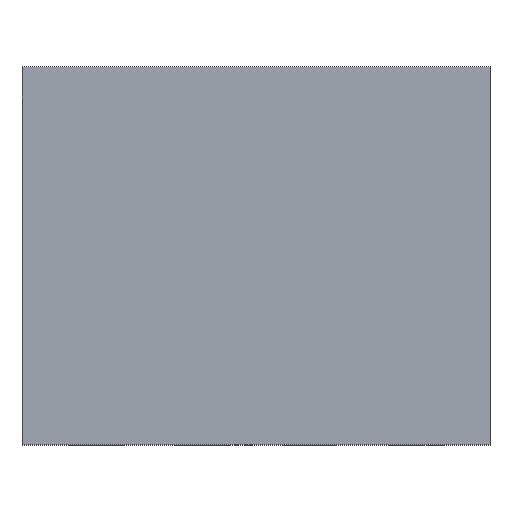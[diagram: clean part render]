
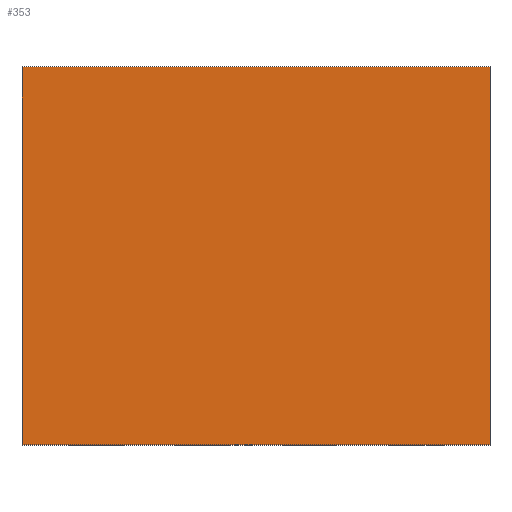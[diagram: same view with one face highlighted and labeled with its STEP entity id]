
A CAD part, top view. The second image highlights one B-rep face of the part: STEP entity #353.
In plain terms, the highlighted planar face has unit normal (0, 0, 1).
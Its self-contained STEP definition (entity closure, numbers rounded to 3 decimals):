
#39 = VERTEX_POINT('',#40);
#40 = CARTESIAN_POINT('',(-5.575,4.5,5.));
#47 = PLANE('',#48);
#48 = AXIS2_PLACEMENT_3D('',#49,#50,#51);
#49 = CARTESIAN_POINT('',(-5.575,4.5,0.));
#50 = DIRECTION('',(0.,1.,0.));
#51 = DIRECTION('',(1.,0.,0.));
#59 = PLANE('',#60);
#60 = AXIS2_PLACEMENT_3D('',#61,#62,#63);
#61 = CARTESIAN_POINT('',(-5.575,-4.5,0.));
#62 = DIRECTION('',(-1.,0.,0.));
#63 = DIRECTION('',(0.,1.,0.));
#71 = EDGE_CURVE('',#39,#72,#74,.T.);
#72 = VERTEX_POINT('',#73);
#73 = CARTESIAN_POINT('',(5.575,4.5,5.));
#74 = SURFACE_CURVE('',#75,(#79,#86),.PCURVE_S1.);
#75 = LINE('',#76,#77);
#76 = CARTESIAN_POINT('',(-5.575,4.5,5.));
#77 = VECTOR('',#78,1.);
#78 = DIRECTION('',(1.,0.,0.));
#79 = PCURVE('',#47,#80);
#80 = DEFINITIONAL_REPRESENTATION('',(#81),#85);
#81 = LINE('',#82,#83);
#82 = CARTESIAN_POINT('',(0.,-5.));
#83 = VECTOR('',#84,1.);
#84 = DIRECTION('',(1.,0.));
#85 = ( GEOMETRIC_REPRESENTATION_CONTEXT(2) 
PARAMETRIC_REPRESENTATION_CONTEXT() REPRESENTATION_CONTEXT('2D SPACE',''
  ) );
#86 = PCURVE('',#87,#92);
#87 = PLANE('',#88);
#88 = AXIS2_PLACEMENT_3D('',#89,#90,#91);
#89 = CARTESIAN_POINT('',(0.,0.,5.));
#90 = DIRECTION('',(-0.,-0.,-1.));
#91 = DIRECTION('',(-1.,0.,0.));
#92 = DEFINITIONAL_REPRESENTATION('',(#93),#97);
#93 = LINE('',#94,#95);
#94 = CARTESIAN_POINT('',(5.575,4.5));
#95 = VECTOR('',#96,1.);
#96 = DIRECTION('',(-1.,0.));
#97 = ( GEOMETRIC_REPRESENTATION_CONTEXT(2) 
PARAMETRIC_REPRESENTATION_CONTEXT() REPRESENTATION_CONTEXT('2D SPACE',''
  ) );
#115 = PLANE('',#116);
#116 = AXIS2_PLACEMENT_3D('',#117,#118,#119);
#117 = CARTESIAN_POINT('',(5.575,4.5,0.));
#118 = DIRECTION('',(1.,0.,-0.));
#119 = DIRECTION('',(0.,-1.,0.));
#157 = EDGE_CURVE('',#72,#158,#160,.T.);
#158 = VERTEX_POINT('',#159);
#159 = CARTESIAN_POINT('',(5.575,-4.5,5.));
#160 = SURFACE_CURVE('',#161,(#165,#172),.PCURVE_S1.);
#161 = LINE('',#162,#163);
#162 = CARTESIAN_POINT('',(5.575,4.5,5.));
#163 = VECTOR('',#164,1.);
#164 = DIRECTION('',(0.,-1.,0.));
#165 = PCURVE('',#115,#166);
#166 = DEFINITIONAL_REPRESENTATION('',(#167),#171);
#167 = LINE('',#168,#169);
#168 = CARTESIAN_POINT('',(0.,-5.));
#169 = VECTOR('',#170,1.);
#170 = DIRECTION('',(1.,0.));
#171 = ( GEOMETRIC_REPRESENTATION_CONTEXT(2) 
PARAMETRIC_REPRESENTATION_CONTEXT() REPRESENTATION_CONTEXT('2D SPACE',''
  ) );
#172 = PCURVE('',#87,#173);
#173 = DEFINITIONAL_REPRESENTATION('',(#174),#178);
#174 = LINE('',#175,#176);
#175 = CARTESIAN_POINT('',(-5.575,4.5));
#176 = VECTOR('',#177,1.);
#177 = DIRECTION('',(0.,-1.));
#178 = ( GEOMETRIC_REPRESENTATION_CONTEXT(2) 
PARAMETRIC_REPRESENTATION_CONTEXT() REPRESENTATION_CONTEXT('2D SPACE',''
  ) );
#196 = PLANE('',#197);
#197 = AXIS2_PLACEMENT_3D('',#198,#199,#200);
#198 = CARTESIAN_POINT('',(5.575,-4.5,0.));
#199 = DIRECTION('',(0.,-1.,0.));
#200 = DIRECTION('',(-1.,0.,0.));
#233 = EDGE_CURVE('',#158,#234,#236,.T.);
#234 = VERTEX_POINT('',#235);
#235 = CARTESIAN_POINT('',(-5.575,-4.5,5.));
#236 = SURFACE_CURVE('',#237,(#241,#248),.PCURVE_S1.);
#237 = LINE('',#238,#239);
#238 = CARTESIAN_POINT('',(5.575,-4.5,5.));
#239 = VECTOR('',#240,1.);
#240 = DIRECTION('',(-1.,0.,0.));
#241 = PCURVE('',#196,#242);
#242 = DEFINITIONAL_REPRESENTATION('',(#243),#247);
#243 = LINE('',#244,#245);
#244 = CARTESIAN_POINT('',(0.,-5.));
#245 = VECTOR('',#246,1.);
#246 = DIRECTION('',(1.,0.));
#247 = ( GEOMETRIC_REPRESENTATION_CONTEXT(2) 
PARAMETRIC_REPRESENTATION_CONTEXT() REPRESENTATION_CONTEXT('2D SPACE',''
  ) );
#248 = PCURVE('',#87,#249);
#249 = DEFINITIONAL_REPRESENTATION('',(#250),#254);
#250 = LINE('',#251,#252);
#251 = CARTESIAN_POINT('',(-5.575,-4.5));
#252 = VECTOR('',#253,1.);
#253 = DIRECTION('',(1.,0.));
#254 = ( GEOMETRIC_REPRESENTATION_CONTEXT(2) 
PARAMETRIC_REPRESENTATION_CONTEXT() REPRESENTATION_CONTEXT('2D SPACE',''
  ) );
#304 = EDGE_CURVE('',#234,#39,#305,.T.);
#305 = SURFACE_CURVE('',#306,(#310,#317),.PCURVE_S1.);
#306 = LINE('',#307,#308);
#307 = CARTESIAN_POINT('',(-5.575,-4.5,5.));
#308 = VECTOR('',#309,1.);
#309 = DIRECTION('',(0.,1.,0.));
#310 = PCURVE('',#59,#311);
#311 = DEFINITIONAL_REPRESENTATION('',(#312),#316);
#312 = LINE('',#313,#314);
#313 = CARTESIAN_POINT('',(0.,-5.));
#314 = VECTOR('',#315,1.);
#315 = DIRECTION('',(1.,0.));
#316 = ( GEOMETRIC_REPRESENTATION_CONTEXT(2) 
PARAMETRIC_REPRESENTATION_CONTEXT() REPRESENTATION_CONTEXT('2D SPACE',''
  ) );
#317 = PCURVE('',#87,#318);
#318 = DEFINITIONAL_REPRESENTATION('',(#319),#323);
#319 = LINE('',#320,#321);
#320 = CARTESIAN_POINT('',(5.575,-4.5));
#321 = VECTOR('',#322,1.);
#322 = DIRECTION('',(0.,1.));
#323 = ( GEOMETRIC_REPRESENTATION_CONTEXT(2) 
PARAMETRIC_REPRESENTATION_CONTEXT() REPRESENTATION_CONTEXT('2D SPACE',''
  ) );
#353 = ADVANCED_FACE('',(#354),#87,.F.);
#354 = FACE_BOUND('',#355,.F.);
#355 = EDGE_LOOP('',(#356,#357,#358,#359));
#356 = ORIENTED_EDGE('',*,*,#71,.T.);
#357 = ORIENTED_EDGE('',*,*,#157,.T.);
#358 = ORIENTED_EDGE('',*,*,#233,.T.);
#359 = ORIENTED_EDGE('',*,*,#304,.T.);
